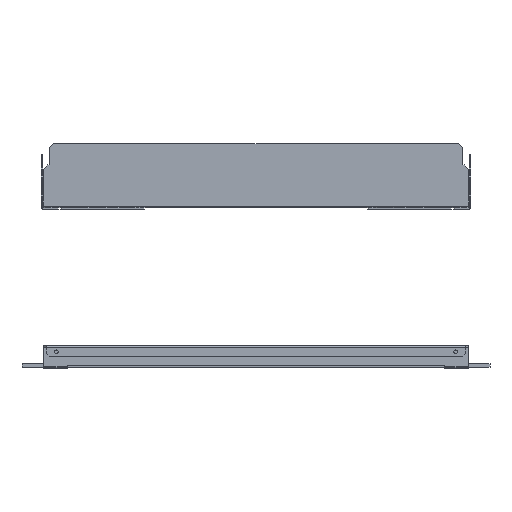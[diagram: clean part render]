
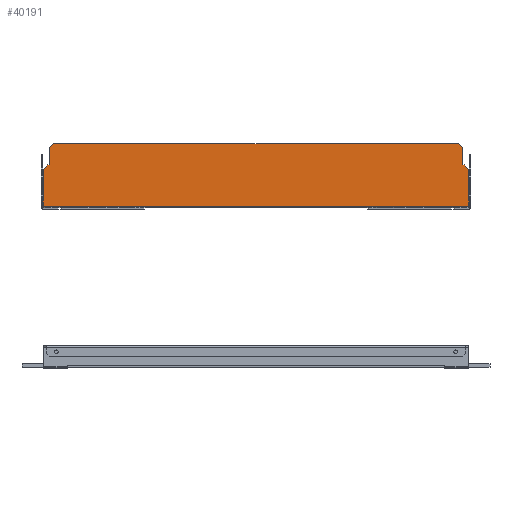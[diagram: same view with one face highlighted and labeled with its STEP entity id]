
A CAD part, front view. The second image highlights one B-rep face of the part: STEP entity #40191.
In plain terms, the highlighted planar face has unit normal (0, -1, 0).
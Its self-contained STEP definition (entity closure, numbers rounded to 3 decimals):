
#38276=CARTESIAN_POINT(' ',(247.5,-1.5,0.6));
#38277=VERTEX_POINT(' ',#38276);
#38291=CARTESIAN_POINT(' ',(247.5,-1.5,0.6));
#38296=DIRECTION(' ',(-1.,0.,0.));
#38301=VECTOR(' ',#38296,1.);
#38306=LINE('',#38291,#38301);
#38311=CARTESIAN_POINT(' ',(-247.5,-1.5,0.6));
#38312=VERTEX_POINT(' ',#38311);
#38316=EDGE_CURVE(' ',#38277,#38312,#38306,.T.);
#38456=CARTESIAN_POINT(' ',(247.5,-1.5,43.5));
#38457=VERTEX_POINT(' ',#38456);
#38471=CARTESIAN_POINT(' ',(247.5,-1.5,43.5));
#38476=DIRECTION(' ',(0.,0.,-1.));
#38481=VECTOR(' ',#38476,1.);
#38486=LINE('',#38471,#38481);
#38491=EDGE_CURVE(' ',#38457,#38277,#38486,.T.);
#39261=CARTESIAN_POINT(' ',(-247.5,-1.5,0.6));
#39266=DIRECTION(' ',(0.,0.,1.));
#39271=VECTOR(' ',#39266,1.);
#39276=LINE('',#39261,#39271);
#39281=CARTESIAN_POINT(' ',(-247.5,-1.5,43.5));
#39282=VERTEX_POINT(' ',#39281);
#39286=EDGE_CURVE(' ',#38312,#39282,#39276,.T.);
#39831=DIRECTION(' ',(0.,-1.,0.));
#39836=CARTESIAN_POINT(' ',(-247.5,-1.5,73.5));
#39841=DIRECTION(' ',(0.,0.,-1.));
#39846=AXIS2_PLACEMENT_3D(' ',#39836,#39831,#39841);
#39851=PLANE('NONE',#39846);
#39856=ORIENTED_EDGE(' ',*,*,#38491,.F.);
#39861=CARTESIAN_POINT(' ',(247.5,-1.5,43.5));
#39866=DIRECTION(' ',(-0.707,0.,0.707));
#39871=VECTOR(' ',#39866,1.);
#39876=LINE('',#39861,#39871);
#39881=CARTESIAN_POINT(' ',(242.5,-1.5,48.5));
#39882=VERTEX_POINT(' ',#39881);
#39886=EDGE_CURVE(' ',#38457,#39882,#39876,.T.);
#39891=ORIENTED_EDGE(' ',*,*,#39886,.T.);
#39896=CARTESIAN_POINT(' ',(240.5,-1.5,48.5));
#39901=DIRECTION(' ',(1.,0.,0.));
#39906=VECTOR(' ',#39901,1.);
#39911=LINE('',#39896,#39906);
#39916=CARTESIAN_POINT(' ',(240.5,-1.5,48.5));
#39917=VERTEX_POINT(' ',#39916);
#39921=EDGE_CURVE(' ',#39917,#39882,#39911,.T.);
#39926=ORIENTED_EDGE(' ',*,*,#39921,.F.);
#39931=CARTESIAN_POINT(' ',(240.5,-1.5,48.5));
#39936=DIRECTION(' ',(0.,0.,1.));
#39941=VECTOR(' ',#39936,1.);
#39946=LINE('',#39931,#39941);
#39951=CARTESIAN_POINT(' ',(240.5,-1.5,68.5));
#39952=VERTEX_POINT(' ',#39951);
#39956=EDGE_CURVE(' ',#39917,#39952,#39946,.T.);
#39961=ORIENTED_EDGE(' ',*,*,#39956,.T.);
#39966=CARTESIAN_POINT(' ',(240.5,-1.5,68.5));
#39971=DIRECTION(' ',(-0.707,0.,0.707));
#39976=VECTOR(' ',#39971,1.);
#39981=LINE('',#39966,#39976);
#39986=CARTESIAN_POINT(' ',(235.5,-1.5,73.5));
#39987=VERTEX_POINT(' ',#39986);
#39991=EDGE_CURVE(' ',#39952,#39987,#39981,.T.);
#39996=ORIENTED_EDGE(' ',*,*,#39991,.T.);
#40001=CARTESIAN_POINT(' ',(235.5,-1.5,73.5));
#40006=DIRECTION(' ',(-1.,0.,0.));
#40011=VECTOR(' ',#40006,1.);
#40016=LINE('',#40001,#40011);
#40021=CARTESIAN_POINT(' ',(-235.5,-1.5,73.5));
#40022=VERTEX_POINT(' ',#40021);
#40026=EDGE_CURVE(' ',#39987,#40022,#40016,.T.);
#40031=ORIENTED_EDGE(' ',*,*,#40026,.T.);
#40036=CARTESIAN_POINT(' ',(-235.5,-1.5,73.5));
#40041=DIRECTION(' ',(-0.707,0.,-0.707));
#40046=VECTOR(' ',#40041,1.);
#40051=LINE('',#40036,#40046);
#40056=CARTESIAN_POINT(' ',(-240.5,-1.5,68.5));
#40057=VERTEX_POINT(' ',#40056);
#40061=EDGE_CURVE(' ',#40022,#40057,#40051,.T.);
#40066=ORIENTED_EDGE(' ',*,*,#40061,.T.);
#40071=CARTESIAN_POINT(' ',(-240.5,-1.5,48.5));
#40076=DIRECTION(' ',(0.,0.,1.));
#40081=VECTOR(' ',#40076,1.);
#40086=LINE('',#40071,#40081);
#40091=CARTESIAN_POINT(' ',(-240.5,-1.5,48.5));
#40092=VERTEX_POINT(' ',#40091);
#40096=EDGE_CURVE(' ',#40092,#40057,#40086,.T.);
#40101=ORIENTED_EDGE(' ',*,*,#40096,.F.);
#40106=CARTESIAN_POINT(' ',(-240.5,-1.5,48.5));
#40111=DIRECTION(' ',(-1.,0.,0.));
#40116=VECTOR(' ',#40111,1.);
#40121=LINE('',#40106,#40116);
#40126=CARTESIAN_POINT(' ',(-242.5,-1.5,48.5));
#40127=VERTEX_POINT(' ',#40126);
#40131=EDGE_CURVE(' ',#40092,#40127,#40121,.T.);
#40136=ORIENTED_EDGE(' ',*,*,#40131,.T.);
#40141=CARTESIAN_POINT(' ',(-242.5,-1.5,48.5));
#40146=DIRECTION(' ',(-0.707,0.,-0.707));
#40151=VECTOR(' ',#40146,1.);
#40156=LINE('',#40141,#40151);
#40161=EDGE_CURVE(' ',#40127,#39282,#40156,.T.);
#40166=ORIENTED_EDGE(' ',*,*,#40161,.T.);
#40171=ORIENTED_EDGE(' ',*,*,#39286,.F.);
#40176=ORIENTED_EDGE(' ',*,*,#38316,.F.);
#40181=EDGE_LOOP(' ',(#39856,#39891,#39926,#39961,#39996,#40031,#40066,#40101,#40136,#40166,#40171,#40176));
#40186=FACE_OUTER_BOUND(' ',#40181,.T.);
#40191=ADVANCED_FACE('NONE',(#40186),#39851,.T.);
